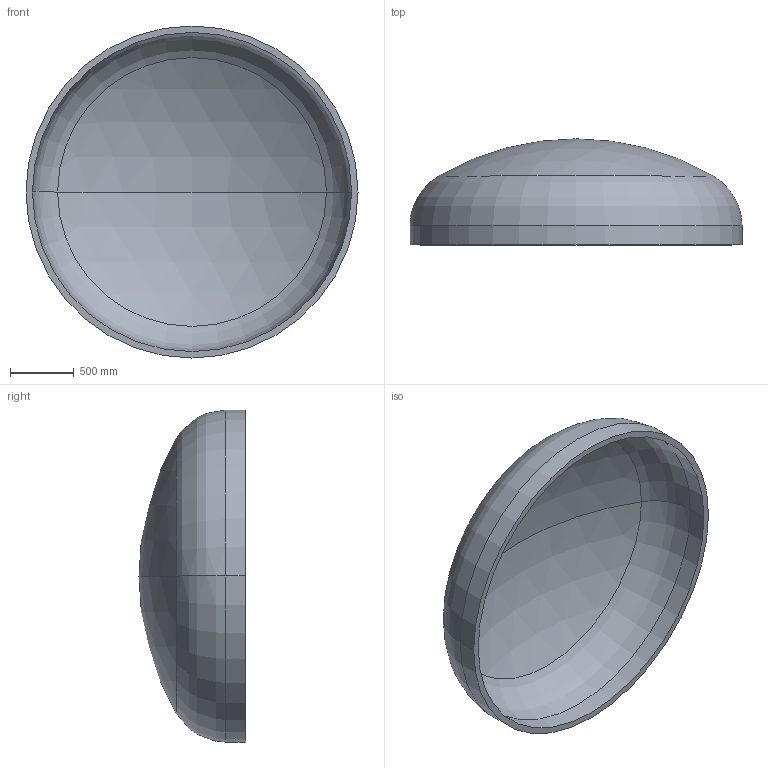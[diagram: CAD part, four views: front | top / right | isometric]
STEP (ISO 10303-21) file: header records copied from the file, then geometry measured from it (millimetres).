
FILE_DESCRIPTION (( 'STEP AP203' ), '1' );
FILE_NAME ('DIN 28013 Korbbogenform_-_Boden DIN 28013 - 2600 x 150 - I - s=50.step', '2016-07-01T16:16:02', ( '' ), ( '' ), 'SwSTEP 2.0', 'SolidWorks 2013', '' );
FILE_SCHEMA (( 'CONFIG_CONTROL_DESIGN' ));
Length unit declared in the file: millimetre
Products named in the file (1): DIN 28013 Korbbogenform_-_Boden DIN 28013 - 2600 x 150 - I - s=50
Bounding box: 2600 x 830.9 x 2600 mm (x, y, z)
Volume: 418480232.5 mm3; surface area: 17144992.9 mm2
Topology: 1 solids, 1 shells, 13 faces, 24 edges, 14 vertices
Faces by surface type: torus 4, cylinder 4, sphere 4, plane 1
Entity records: 407 total; most frequent: DIRECTION 72, CARTESIAN_POINT 52, ORIENTED_EDGE 48, AXIS2_PLACEMENT_3D 34, EDGE_CURVE 24, CIRCLE 20, EDGE_LOOP 14, VERTEX_POINT 14
